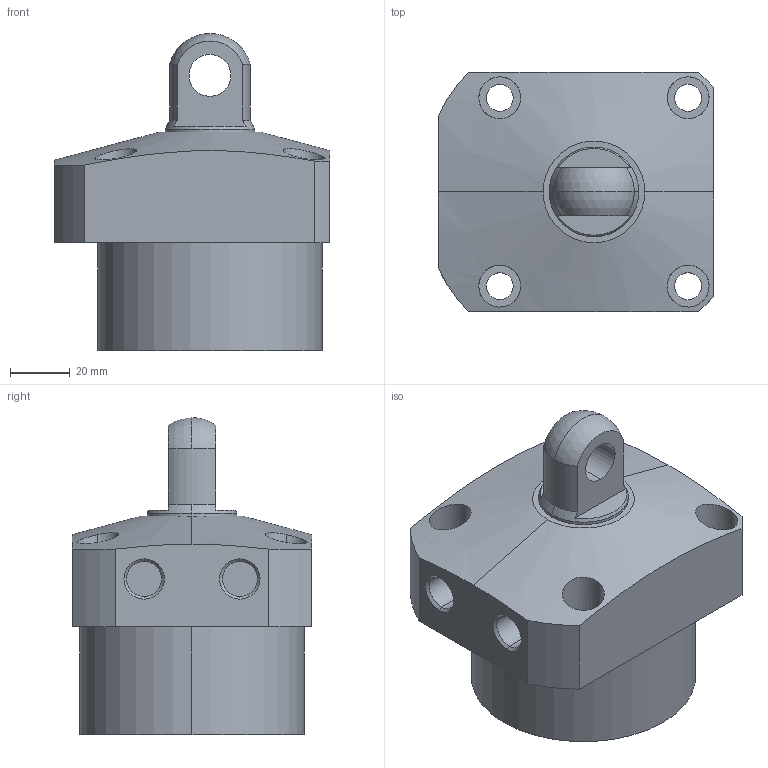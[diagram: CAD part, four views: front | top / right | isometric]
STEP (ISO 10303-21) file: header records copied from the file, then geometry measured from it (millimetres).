
FILE_DESCRIPTION (( 'STEP AP203' ), '1' );
FILE_NAME ('CLL-075CP-20.STEP', '2019-12-20T08:19:29', ( '' ), ( '' ), 'SwSTEP 2.0', 'SolidWorks 2015', '' );
FILE_SCHEMA (( 'CONFIG_CONTROL_DESIGN' ));
Length unit declared in the file: millimetre
Products named in the file (1): CLL-075CP-20
Bounding box: 92 x 80 x 106 mm (x, y, z)
Volume: 388512.9 mm3; surface area: 39751.9 mm2
Topology: 1 solids, 1 shells, 66 faces, 155 edges, 101 vertices
Faces by surface type: cylinder 35, plane 21, cone 8, sphere 2
Entity records: 2408 total; most frequent: CARTESIAN_POINT 755, DIRECTION 345, ORIENTED_EDGE 310, EDGE_CURVE 155, AXIS2_PLACEMENT_3D 143, VERTEX_POINT 101, EDGE_LOOP 86, CIRCLE 76
